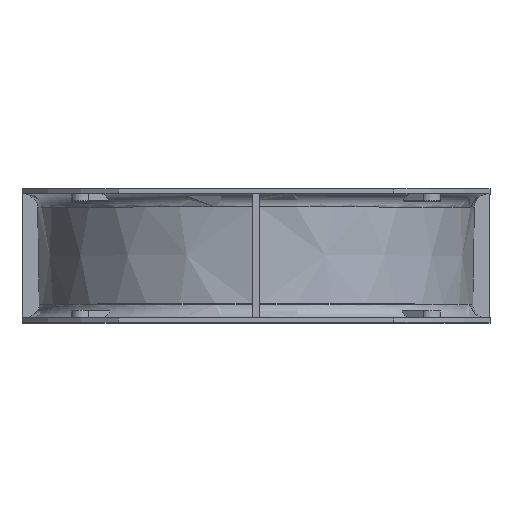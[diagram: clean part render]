
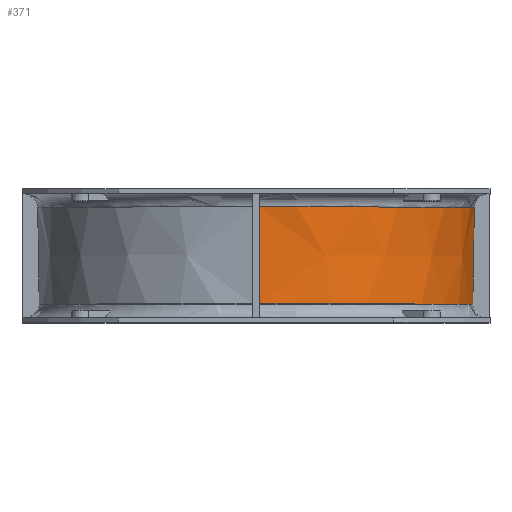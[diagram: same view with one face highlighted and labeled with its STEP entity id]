
A CAD part, top view. The second image highlights one B-rep face of the part: STEP entity #371.
In plain terms, the highlighted conical face has half-angle 0.9 degrees and reference radius 129.726 mm.
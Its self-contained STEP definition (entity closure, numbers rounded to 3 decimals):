
#71 = AXIS2_PLACEMENT_3D ( 'NONE', #1041, #5347, #1162 ) ;
#128 = CARTESIAN_POINT ( 'NONE',  ( 130.316, 49.795, 2.16 ) ) ;
#306 = CARTESIAN_POINT ( 'NONE',  ( 2.155, 69.129, 130.619 ) ) ;
#371 = ADVANCED_FACE ( 'NONE', ( #3991 ), #5074, .T. ) ;
#734 = CARTESIAN_POINT ( 'NONE',  ( 2.155, 69.129, 130.619 ) ) ;
#893 = CARTESIAN_POINT ( 'NONE',  ( 0., 69.129, 0. ) ) ;
#1041 = CARTESIAN_POINT ( 'NONE',  ( 0., 11.129, 0. ) ) ;
#1162 = DIRECTION ( 'NONE',  ( 0., 0., -1. ) ) ;
#1299 = VERTEX_POINT ( 'NONE', #2962 ) ;
#1464 = DIRECTION ( 'NONE',  ( 0., 1., 0. ) ) ;
#1615 = EDGE_CURVE ( 'NONE', #4341, #2130, #2771, .T. ) ;
#1703 = CIRCLE ( 'NONE', #71, 129.726 ) ;
#1776 = B_SPLINE_CURVE_WITH_KNOTS ( 'NONE', 3,
 ( #734, #3227, #2439, #5428 ),
 .UNSPECIFIED., .F., .F.,
 ( 4, 4 ),
 ( 0., 0.058 ),
 .UNSPECIFIED. ) ;
#2130 = VERTEX_POINT ( 'NONE', #4758 ) ;
#2184 = AXIS2_PLACEMENT_3D ( 'NONE', #893, #4817, #2696 ) ;
#2319 = EDGE_CURVE ( 'NONE', #2130, #1299, #1703, .T. ) ;
#2344 = DIRECTION ( 'NONE',  ( 0., 0., 1. ) ) ;
#2439 = CARTESIAN_POINT ( 'NONE',  ( 2.166, 30.462, 130.012 ) ) ;
#2696 = DIRECTION ( 'NONE',  ( 0., 0., -1. ) ) ;
#2771 = B_SPLINE_CURVE_WITH_KNOTS ( 'NONE', 3,
 ( #3989, #128, #5296, #5071 ),
 .UNSPECIFIED., .F., .F.,
 ( 4, 4 ),
 ( 0., 0.058 ),
 .UNSPECIFIED. ) ;
#2781 = ORIENTED_EDGE ( 'NONE', *, *, #1615, .F. ) ;
#2816 = EDGE_CURVE ( 'NONE', #5531, #1299, #1776, .T. ) ;
#2825 = CARTESIAN_POINT ( 'NONE',  ( 130.619, 69.129, 2.155 ) ) ;
#2962 = CARTESIAN_POINT ( 'NONE',  ( 2.171, 11.129, 129.708 ) ) ;
#3227 = CARTESIAN_POINT ( 'NONE',  ( 2.16, 49.795, 130.316 ) ) ;
#3611 = ORIENTED_EDGE ( 'NONE', *, *, #2319, .F. ) ;
#3696 = ORIENTED_EDGE ( 'NONE', *, *, #2816, .T. ) ;
#3989 = CARTESIAN_POINT ( 'NONE',  ( 130.619, 69.129, 2.155 ) ) ;
#3991 = FACE_OUTER_BOUND ( 'NONE', #5462, .T. ) ;
#4341 = VERTEX_POINT ( 'NONE', #2825 ) ;
#4430 = CARTESIAN_POINT ( 'NONE',  ( 0., 11.129, 0. ) ) ;
#4596 = CIRCLE ( 'NONE', #2184, 130.637 ) ;
#4758 = CARTESIAN_POINT ( 'NONE',  ( 129.708, 11.129, 2.171 ) ) ;
#4817 = DIRECTION ( 'NONE',  ( 0., -1., 0. ) ) ;
#5071 = CARTESIAN_POINT ( 'NONE',  ( 129.708, 11.129, 2.171 ) ) ;
#5074 = CONICAL_SURFACE ( 'NONE', #5533, 129.726, 0.016 ) ;
#5193 = ORIENTED_EDGE ( 'NONE', *, *, #5280, .T. ) ;
#5280 = EDGE_CURVE ( 'NONE', #4341, #5531, #4596, .T. ) ;
#5296 = CARTESIAN_POINT ( 'NONE',  ( 130.012, 30.462, 2.166 ) ) ;
#5347 = DIRECTION ( 'NONE',  ( 0., -1., 0. ) ) ;
#5428 = CARTESIAN_POINT ( 'NONE',  ( 2.171, 11.129, 129.708 ) ) ;
#5462 = EDGE_LOOP ( 'NONE', ( #5193, #3696, #3611, #2781 ) ) ;
#5531 = VERTEX_POINT ( 'NONE', #306 ) ;
#5533 = AXIS2_PLACEMENT_3D ( 'NONE', #4430, #1464, #2344 ) ;
